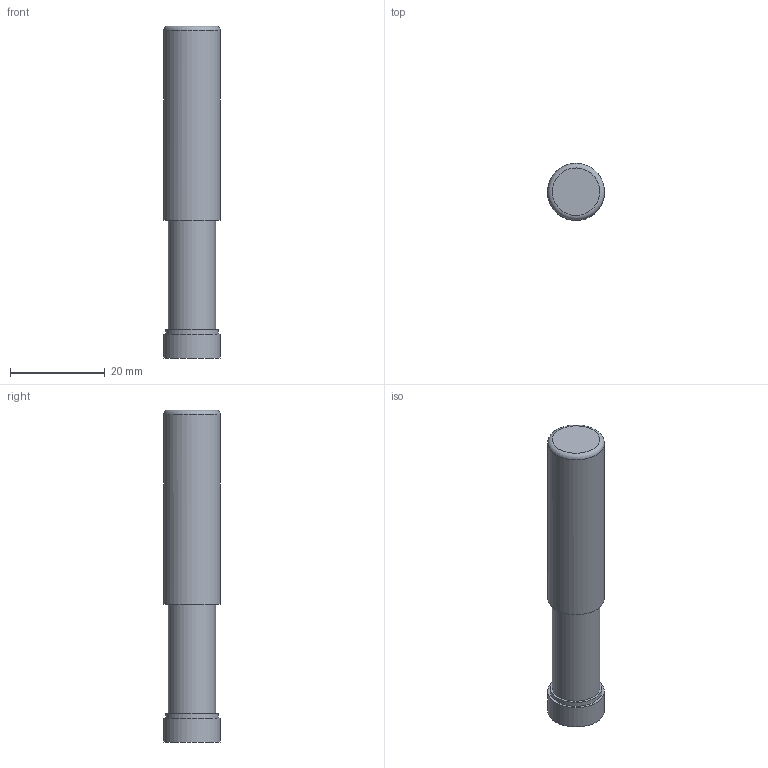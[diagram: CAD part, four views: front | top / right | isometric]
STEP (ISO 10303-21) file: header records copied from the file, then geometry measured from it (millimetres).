
FILE_DESCRIPTION(/* description */ (''),/* implementation_level */ '2;1');
FILE_NAME(/* name */ 'C:\#Vault-WorkDir\Konstruktions-Dokumente\Projekte\Ultraschallsensoren\153-00583_UT 12.stp',/* time_stamp */ '2019-01-16T10:21:10+01:00',/* author */ ('SensoPart'),/* organization */ ('SensoPart'),/* preprocessor_version */ 'ST-DEVELOPER v17',/* originating_system */ 'Autodesk Inventor 2018',/* authorisation */ '');
FILE_SCHEMA (('AUTOMOTIVE_DESIGN { 1 0 10303 214 3 1 1 }'));
Length unit declared in the file: millimetre
Products named in the file (1): GH-ENG-0027745
Bounding box: 12 x 12 x 70 mm (x, y, z)
Volume: 7096.1 mm3; surface area: 2770 mm2
Topology: 1 solids, 1 shells, 10 faces, 18 edges, 13 vertices
Faces by surface type: plane 5, cylinder 4, torus 1
Full cylindrical faces by diameter (mm): 10 x1, 11 x1, 12 x2
Entity records: 316 total; most frequent: DIRECTION 54, CARTESIAN_POINT 42, ORIENTED_EDGE 36, AXIS2_PLACEMENT_3D 25, EDGE_CURVE 18, CIRCLE 14, EDGE_LOOP 13, VERTEX_POINT 13
